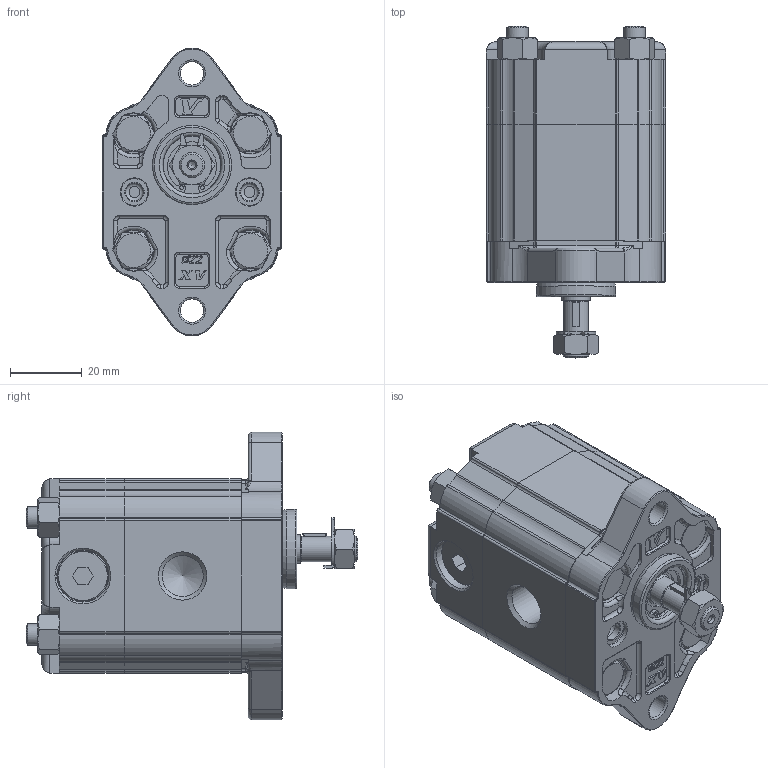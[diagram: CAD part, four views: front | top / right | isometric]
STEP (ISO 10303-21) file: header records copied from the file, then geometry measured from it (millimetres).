
FILE_DESCRIPTION(/* description */ ('Unknown'),/* implementation_level */ '2;1');
FILE_NAME(/* name */ 'X0R0501ABBF',/* time_stamp */ '2021-05-10T18:03:24+02:00',/* author */ ('Unknown'),/* organization */ ('Unknown'),/* preprocessor_version */ 'ST-DEVELOPER v16.7',/* originating_system */ 'Solid Edge',/* authorisation */ 'Unknown');
FILE_SCHEMA (('AUTOMOTIVE_DESIGN {1 0 10303 214 3 1 1}'));
Length unit declared in the file: millimetre
Products named in the file (5): X0R0501ABBF; X0R01; 0A; X0BBH32,5; XR001-F
Assembly tree (4 placements, depth 2):
  X0R0501ABBF
    X0R01
    0A
    X0BBH32,5
    XR001-F
Bounding box: 50 x 92.3 x 79.95 mm (x, y, z)
Volume: 155509.9 mm3; surface area: 42043.2 mm2
Topology: 4 solids, 9 shells, 980 faces, 2526 edges, 1598 vertices
Faces by surface type: plane 424, cylinder 315, cone 111, torus 84, bspline 42, sphere 4
Full cylindrical faces by diameter (mm): 1.053 x2, 2 x1, 5 x2, 6 x8, 6.01 x4, 6.5 x8, 7 x2, 7.25 x1, 7.5 x2, 7.9 x2, 7.92 x1, 8 x2, 8.1 x2, 8.566 x6, 9.318 x1, 10 x6, 10.445 x1, 11 x1, 11.445 x2, 14 x5, 14.5 x2, 16 x1, 16.2 x1, 16.8 x1, 22 x1
Entity records: 36588 total; most frequent: CARTESIAN_POINT 6380, DIRECTION 4929, ORIENTED_EDGE 4676, EDGE_CURVE 2338, AXIS2_PLACEMENT_3D 1900, VERTEX_POINT 1540, FACE_BOUND 1214, EDGE_LOOP 1209
